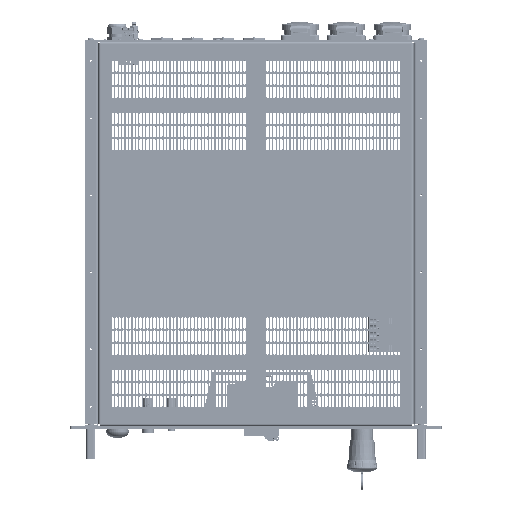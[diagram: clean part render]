
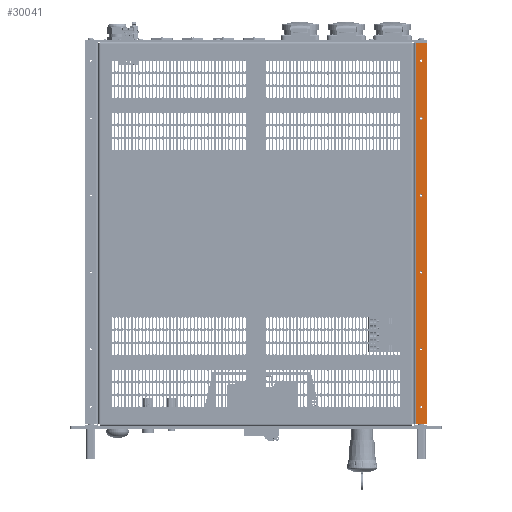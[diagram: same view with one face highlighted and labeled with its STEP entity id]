
A CAD part, top view. The second image highlights one B-rep face of the part: STEP entity #30041.
In plain terms, the highlighted planar face has unit normal (0, 0, 1) as drawn and (1, 0, 0) by its records, which use the part's own axes.
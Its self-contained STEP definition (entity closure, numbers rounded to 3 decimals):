
#30041=ADVANCED_FACE('',(#74509,#74510,#74511,#74512,#74513,#74514,#74515),#74516,.F.);
#74509=FACE_BOUND('',#128603,.T.);
#74510=FACE_BOUND('',#128604,.T.);
#74511=FACE_BOUND('',#128605,.T.);
#74512=FACE_BOUND('',#128606,.T.);
#74513=FACE_BOUND('',#128607,.T.);
#74514=FACE_BOUND('',#128608,.T.);
#74515=FACE_OUTER_BOUND('',#128609,.T.);
#74516=PLANE('',#128610);
#128603=EDGE_LOOP('',(#235852,#235853));
#128604=EDGE_LOOP('',(#235854,#235855));
#128605=EDGE_LOOP('',(#235856,#235857));
#128606=EDGE_LOOP('',(#235858,#235859));
#128607=EDGE_LOOP('',(#235860,#235861));
#128608=EDGE_LOOP('',(#235862,#235863));
#128609=EDGE_LOOP('',(#235864,#235865,#235866,#235867));
#128610=AXIS2_PLACEMENT_3D('',#235868,#235869,#235870);
#235852=ORIENTED_EDGE('',*,*,#340793,.T.);
#235853=ORIENTED_EDGE('',*,*,#343210,.T.);
#235854=ORIENTED_EDGE('',*,*,#343211,.T.);
#235855=ORIENTED_EDGE('',*,*,#340790,.T.);
#235856=ORIENTED_EDGE('',*,*,#343212,.T.);
#235857=ORIENTED_EDGE('',*,*,#340785,.T.);
#235858=ORIENTED_EDGE('',*,*,#343213,.T.);
#235859=ORIENTED_EDGE('',*,*,#340780,.T.);
#235860=ORIENTED_EDGE('',*,*,#343214,.T.);
#235861=ORIENTED_EDGE('',*,*,#340775,.T.);
#235862=ORIENTED_EDGE('',*,*,#343215,.T.);
#235863=ORIENTED_EDGE('',*,*,#340770,.T.);
#235864=ORIENTED_EDGE('',*,*,#342834,.F.);
#235865=ORIENTED_EDGE('',*,*,#343208,.T.);
#235866=ORIENTED_EDGE('',*,*,#343216,.T.);
#235867=ORIENTED_EDGE('',*,*,#343217,.T.);
#235868=CARTESIAN_POINT('',(83.6,250.0,8.5));
#235869=DIRECTION('',(-1.0,0.0,0.));
#235870=DIRECTION('',(0.,0.0,1.0));
#340770=EDGE_CURVE('',#402988,#402992,#402994,.F.);
#340775=EDGE_CURVE('',#402997,#403001,#403003,.T.);
#340780=EDGE_CURVE('',#403006,#403010,#403012,.T.);
#340785=EDGE_CURVE('',#403015,#403019,#403021,.F.);
#340790=EDGE_CURVE('',#403024,#403028,#403030,.F.);
#340793=EDGE_CURVE('',#403035,#403032,#403036,.T.);
#342834=EDGE_CURVE('',#406477,#406479,#406480,.T.);
#343208=EDGE_CURVE('',#406477,#406861,#406863,.T.);
#343210=EDGE_CURVE('',#403032,#403035,#406865,.T.);
#343211=EDGE_CURVE('',#403028,#403024,#406866,.F.);
#343212=EDGE_CURVE('',#403019,#403015,#406867,.F.);
#343213=EDGE_CURVE('',#403010,#403006,#406868,.T.);
#343214=EDGE_CURVE('',#403001,#402997,#406869,.T.);
#343215=EDGE_CURVE('',#402992,#402988,#406870,.F.);
#343216=EDGE_CURVE('',#406861,#406871,#406872,.T.);
#343217=EDGE_CURVE('',#406871,#406479,#406873,.T.);
#402988=VERTEX_POINT('',#487950);
#402992=VERTEX_POINT('',#487955);
#402994=CIRCLE('',#487958,1.75);
#402997=VERTEX_POINT('',#487961);
#403001=VERTEX_POINT('',#487966);
#403003=CIRCLE('',#487969,1.75);
#403006=VERTEX_POINT('',#487972);
#403010=VERTEX_POINT('',#487977);
#403012=CIRCLE('',#487980,1.75);
#403015=VERTEX_POINT('',#487983);
#403019=VERTEX_POINT('',#487988);
#403021=CIRCLE('',#487991,1.75);
#403024=VERTEX_POINT('',#487994);
#403028=VERTEX_POINT('',#487999);
#403030=CIRCLE('',#488002,1.75);
#403032=VERTEX_POINT('',#488004);
#403035=VERTEX_POINT('',#488008);
#403036=CIRCLE('',#488009,1.75);
#406477=VERTEX_POINT('',#492456);
#406479=VERTEX_POINT('',#492458);
#406480=LINE('',#492459,#492460);
#406861=VERTEX_POINT('',#493021);
#406863=LINE('',#493024,#493025);
#406865=CIRCLE('',#493027,1.75);
#406866=CIRCLE('',#493028,1.75);
#406867=CIRCLE('',#493029,1.75);
#406868=CIRCLE('',#493030,1.75);
#406869=CIRCLE('',#493031,1.75);
#406870=CIRCLE('',#493032,1.75);
#406871=VERTEX_POINT('',#493033);
#406872=LINE('',#493034,#493035);
#406873=LINE('',#493036,#493037);
#487950=CARTESIAN_POINT('',(83.6,25.0,9.0));
#487955=CARTESIAN_POINT('',(83.6,25.0,5.5));
#487958=AXIS2_PLACEMENT_3D('',#589015,#589016,#589017);
#487961=CARTESIAN_POINT('',(83.6,100.0,9.0));
#487966=CARTESIAN_POINT('',(83.6,100.0,5.5));
#487969=AXIS2_PLACEMENT_3D('',#589023,#589024,#589025);
#487972=CARTESIAN_POINT('',(83.6,300.0,9.0));
#487977=CARTESIAN_POINT('',(83.6,300.0,5.5));
#487980=AXIS2_PLACEMENT_3D('',#589031,#589032,#589033);
#487983=CARTESIAN_POINT('',(83.6,400.0,9.0));
#487988=CARTESIAN_POINT('',(83.6,400.0,5.5));
#487991=AXIS2_PLACEMENT_3D('',#589039,#589040,#589041);
#487994=CARTESIAN_POINT('',(83.6,475.0,9.0));
#487999=CARTESIAN_POINT('',(83.6,475.0,5.5));
#488002=AXIS2_PLACEMENT_3D('',#589047,#589048,#589049);
#488004=CARTESIAN_POINT('',(83.6,200.0,5.5));
#488008=CARTESIAN_POINT('',(83.6,200.0,9.0));
#488009=AXIS2_PLACEMENT_3D('',#589051,#589052,#589053);
#492456=CARTESIAN_POINT('',(83.6,2.5,14.0));
#492458=CARTESIAN_POINT('',(83.6,497.5,14.0));
#492459=CARTESIAN_POINT('',(83.6,250.0,14.0));
#492460=VECTOR('',#592244,1.0);
#493021=CARTESIAN_POINT('',(83.6,2.5,0.0));
#493024=CARTESIAN_POINT('',(83.6,2.5,8.5));
#493025=VECTOR('',#592456,1.0);
#493027=AXIS2_PLACEMENT_3D('',#592457,#592458,#592459);
#493028=AXIS2_PLACEMENT_3D('',#592460,#592461,#592462);
#493029=AXIS2_PLACEMENT_3D('',#592463,#592464,#592465);
#493030=AXIS2_PLACEMENT_3D('',#592466,#592467,#592468);
#493031=AXIS2_PLACEMENT_3D('',#592469,#592470,#592471);
#493032=AXIS2_PLACEMENT_3D('',#592472,#592473,#592474);
#493033=CARTESIAN_POINT('',(83.6,497.5,0.0));
#493034=CARTESIAN_POINT('',(83.6,250.0,0.0));
#493035=VECTOR('',#592475,1.0);
#493036=CARTESIAN_POINT('',(83.6,497.5,8.5));
#493037=VECTOR('',#592476,1.0);
#589015=CARTESIAN_POINT('',(83.6,25.0,7.25));
#589016=DIRECTION('',(1.0,0.0,0.));
#589017=DIRECTION('',(0.,0.0,1.0));
#589023=CARTESIAN_POINT('',(83.6,100.0,7.25));
#589024=DIRECTION('',(-1.0,0.0,0.));
#589025=DIRECTION('',(0.,0.0,1.0));
#589031=CARTESIAN_POINT('',(83.6,300.0,7.25));
#589032=DIRECTION('',(-1.0,0.0,0.));
#589033=DIRECTION('',(0.,0.0,1.0));
#589039=CARTESIAN_POINT('',(83.6,400.0,7.25));
#589040=DIRECTION('',(1.0,0.0,0.));
#589041=DIRECTION('',(0.,0.0,1.0));
#589047=CARTESIAN_POINT('',(83.6,475.0,7.25));
#589048=DIRECTION('',(1.0,0.0,0.));
#589049=DIRECTION('',(0.,0.0,1.0));
#589051=CARTESIAN_POINT('',(83.6,200.0,7.25));
#589052=DIRECTION('',(-1.0,0.0,0.));
#589053=DIRECTION('',(0.,0.0,-1.0));
#592244=DIRECTION('',(0.0,1.0,0.0));
#592456=DIRECTION('',(0.0,0.0,-1.0));
#592457=CARTESIAN_POINT('',(83.6,200.0,7.25));
#592458=DIRECTION('',(-1.0,0.0,0.));
#592459=DIRECTION('',(0.,0.0,-1.0));
#592460=CARTESIAN_POINT('',(83.6,475.0,7.25));
#592461=DIRECTION('',(1.0,0.0,0.));
#592462=DIRECTION('',(0.,0.0,1.0));
#592463=CARTESIAN_POINT('',(83.6,400.0,7.25));
#592464=DIRECTION('',(1.0,0.0,0.));
#592465=DIRECTION('',(0.,0.0,1.0));
#592466=CARTESIAN_POINT('',(83.6,300.0,7.25));
#592467=DIRECTION('',(-1.0,0.0,0.));
#592468=DIRECTION('',(0.,0.0,1.0));
#592469=CARTESIAN_POINT('',(83.6,100.0,7.25));
#592470=DIRECTION('',(-1.0,0.0,0.));
#592471=DIRECTION('',(0.,0.0,1.0));
#592472=CARTESIAN_POINT('',(83.6,25.0,7.25));
#592473=DIRECTION('',(1.0,0.0,0.));
#592474=DIRECTION('',(0.,0.0,1.0));
#592475=DIRECTION('',(0.0,1.0,0.0));
#592476=DIRECTION('',(0.0,0.0,1.0));
